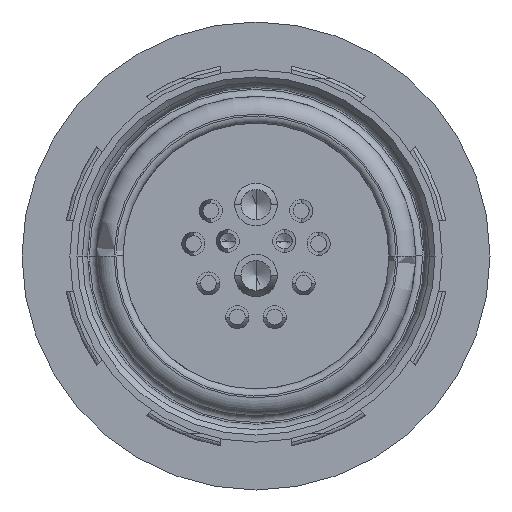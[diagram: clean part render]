
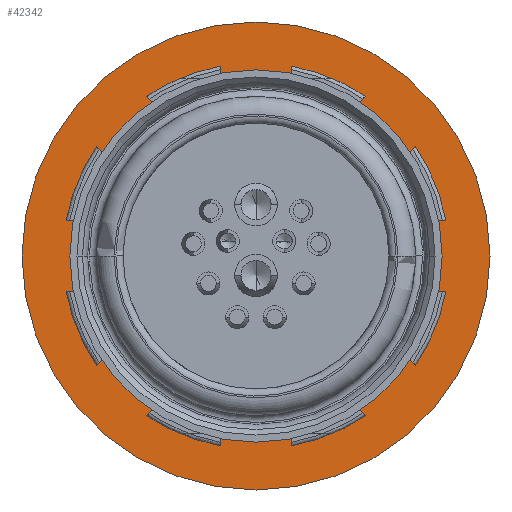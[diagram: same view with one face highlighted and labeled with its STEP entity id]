
A CAD part, left-side view. The second image highlights one B-rep face of the part: STEP entity #42342.
In plain terms, the highlighted planar face has unit normal (-1, 0, 0).
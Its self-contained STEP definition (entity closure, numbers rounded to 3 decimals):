
#5542=CARTESIAN_POINT('',(-10.7,0.,0.));
#5543=DIRECTION('',(1.,0.,0.));
#5544=DIRECTION('',(0.,-1.,0.));
#5545=AXIS2_PLACEMENT_3D('',#5542,#5543,#5544);
#5547=CARTESIAN_POINT('',(-10.7,0.,0.));
#5548=DIRECTION('',(1.,0.,0.));
#5549=DIRECTION('',(0.,1.,0.));
#5550=AXIS2_PLACEMENT_3D('',#5547,#5548,#5549);
#5552=CARTESIAN_POINT('',(-10.7,0.,0.));
#5553=DIRECTION('',(-1.,0.,0.));
#5554=DIRECTION('',(0.,0.707,0.707));
#5555=AXIS2_PLACEMENT_3D('',#5552,#5553,#5554);
#5557=CARTESIAN_POINT('',(-10.7,0.,0.));
#5558=DIRECTION('',(-1.,0.,0.));
#5559=DIRECTION('',(0.,1.,0.));
#5560=AXIS2_PLACEMENT_3D('',#5557,#5558,#5559);
#5562=CARTESIAN_POINT('',(-10.7,0.,0.));
#5563=DIRECTION('',(-1.,0.,0.));
#5564=DIRECTION('',(0.,0.707,-0.707));
#5565=AXIS2_PLACEMENT_3D('',#5562,#5563,#5564);
#5567=CARTESIAN_POINT('',(-10.7,0.,0.));
#5568=DIRECTION('',(-1.,0.,0.));
#5569=DIRECTION('',(0.,0.,-1.));
#5570=AXIS2_PLACEMENT_3D('',#5567,#5568,#5569);
#5572=CARTESIAN_POINT('',(-10.7,0.,0.));
#5573=DIRECTION('',(-1.,0.,0.));
#5574=DIRECTION('',(0.,-0.707,-0.707));
#5575=AXIS2_PLACEMENT_3D('',#5572,#5573,#5574);
#5577=CARTESIAN_POINT('',(-10.7,0.,0.));
#5578=DIRECTION('',(-1.,0.,0.));
#5579=DIRECTION('',(0.,-1.,0.));
#5580=AXIS2_PLACEMENT_3D('',#5577,#5578,#5579);
#5582=CARTESIAN_POINT('',(-10.7,0.,0.));
#5583=DIRECTION('',(-1.,0.,0.));
#5584=DIRECTION('',(0.,-0.707,0.707));
#5585=AXIS2_PLACEMENT_3D('',#5582,#5583,#5584);
#5587=CARTESIAN_POINT('',(-10.7,0.,0.));
#5588=DIRECTION('',(-1.,0.,0.));
#5589=DIRECTION('',(0.,0.,1.));
#5590=AXIS2_PLACEMENT_3D('',#5587,#5588,#5589);
#16224=CARTESIAN_POINT('',(-10.7,6.6,0.));
#16225=VERTEX_POINT('',#16224);
#16226=CARTESIAN_POINT('',(-10.7,-6.6,0.));
#16227=VERTEX_POINT('',#16226);
#16228=CARTESIAN_POINT('',(-10.7,3.571,3.571));
#16229=CARTESIAN_POINT('',(-10.7,5.05,0.));
#16230=VERTEX_POINT('',#16228);
#16231=VERTEX_POINT('',#16229);
#16232=CARTESIAN_POINT('',(-10.7,3.571,-3.571));
#16233=VERTEX_POINT('',#16232);
#16234=CARTESIAN_POINT('',(-10.7,0.,-5.05));
#16235=VERTEX_POINT('',#16234);
#16236=CARTESIAN_POINT('',(-10.7,-3.571,-3.571));
#16237=VERTEX_POINT('',#16236);
#16238=CARTESIAN_POINT('',(-10.7,-5.05,0.));
#16239=VERTEX_POINT('',#16238);
#16240=CARTESIAN_POINT('',(-10.7,-3.571,3.571));
#16241=VERTEX_POINT('',#16240);
#16242=CARTESIAN_POINT('',(-10.7,0.,5.05));
#16243=VERTEX_POINT('',#16242);
#42315=CARTESIAN_POINT('',(-10.7,0.,0.));
#42316=DIRECTION('',(1.,0.,0.));
#42317=DIRECTION('',(0.,-1.,0.));
#42318=AXIS2_PLACEMENT_3D('',#42315,#42316,#42317);
#42319=PLANE('',#42318);
#42320=ORIENTED_EDGE('',*,*,#42301,.T.);
#42321=ORIENTED_EDGE('',*,*,#42283,.T.);
#42322=EDGE_LOOP('',(#42320,#42321));
#42323=FACE_OUTER_BOUND('',#42322,.F.);
#42325=ORIENTED_EDGE('',*,*,#42324,.T.);
#42327=ORIENTED_EDGE('',*,*,#42326,.T.);
#42329=ORIENTED_EDGE('',*,*,#42328,.T.);
#42331=ORIENTED_EDGE('',*,*,#42330,.T.);
#42333=ORIENTED_EDGE('',*,*,#42332,.T.);
#42335=ORIENTED_EDGE('',*,*,#42334,.T.);
#42337=ORIENTED_EDGE('',*,*,#42336,.T.);
#42339=ORIENTED_EDGE('',*,*,#42338,.T.);
#42340=EDGE_LOOP('',(#42325,#42327,#42329,#42331,#42333,#42335,#42337,#42339));
#42341=FACE_BOUND('',#42340,.F.);
#5546=CIRCLE('',#5545,6.6);
#5551=CIRCLE('',#5550,6.6);
#5556=CIRCLE('',#5555,5.05);
#5561=CIRCLE('',#5560,5.05);
#5566=CIRCLE('',#5565,5.05);
#5571=CIRCLE('',#5570,5.05);
#5576=CIRCLE('',#5575,5.05);
#5581=CIRCLE('',#5580,5.05);
#5586=CIRCLE('',#5585,5.05);
#5591=CIRCLE('',#5590,5.05);
#42283=EDGE_CURVE('',#16225,#16227,#5551,.T.);
#42301=EDGE_CURVE('',#16227,#16225,#5546,.T.);
#42324=EDGE_CURVE('',#16230,#16231,#5556,.T.);
#42326=EDGE_CURVE('',#16231,#16233,#5561,.T.);
#42328=EDGE_CURVE('',#16233,#16235,#5566,.T.);
#42330=EDGE_CURVE('',#16235,#16237,#5571,.T.);
#42332=EDGE_CURVE('',#16237,#16239,#5576,.T.);
#42334=EDGE_CURVE('',#16239,#16241,#5581,.T.);
#42336=EDGE_CURVE('',#16241,#16243,#5586,.T.);
#42338=EDGE_CURVE('',#16243,#16230,#5591,.T.);
#42342=ADVANCED_FACE('',(#42323,#42341),#42319,.F.);
